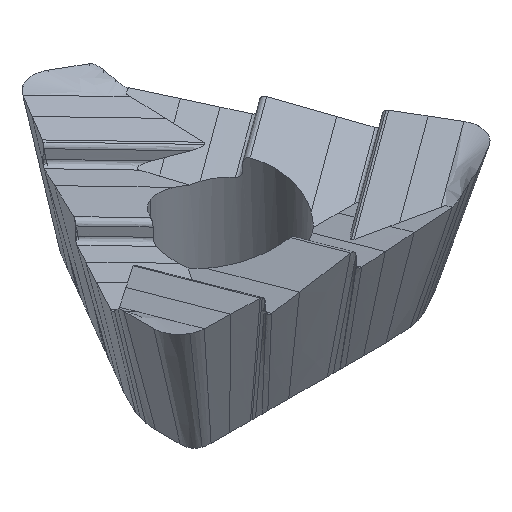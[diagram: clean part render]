
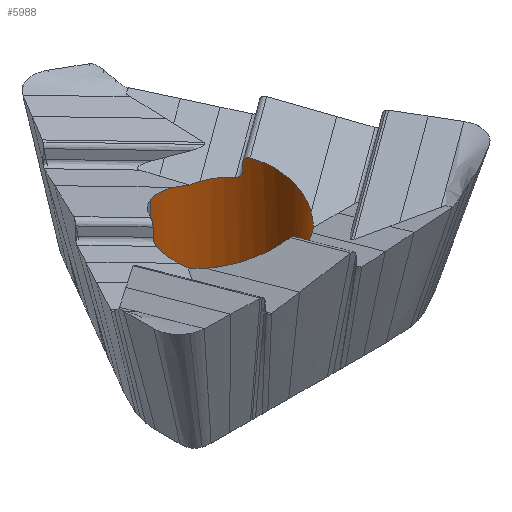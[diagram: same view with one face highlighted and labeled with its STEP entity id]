
A CAD part, isometric view. The second image highlights one B-rep face of the part: STEP entity #5988.
In plain terms, the highlighted cylindrical face has radius 1.9 mm (diameter 3.8 mm), a partial arc.
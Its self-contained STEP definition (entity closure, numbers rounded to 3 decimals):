
#1391=AXIS2_PLACEMENT_3D('Circle Axis2P3D',#1389,#1390,$) ;
#5881=AXIS2_PLACEMENT_3D('Cylinder Axis2P3D',#5878,#5879,#5880) ;
#1384=CARTESIAN_POINT('Vertex',(-0.911,1.667,0.)) ;
#1386=CARTESIAN_POINT('Vertex',(0.911,-1.667,0.)) ;
#1389=CARTESIAN_POINT('Axis2P3D Location',(0.,0.,0.)) ;
#5753=CARTESIAN_POINT('Vertex',(-0.911,1.667,3.129)) ;
#5846=CARTESIAN_POINT('Vertex',(0.911,-1.667,2.772)) ;
#5849=CARTESIAN_POINT('Line Origine',(0.911,-1.667,2.)) ;
#5854=CARTESIAN_POINT('Line Origine',(-0.911,1.667,2.)) ;
#5878=CARTESIAN_POINT('Axis2P3D Location',(0.,0.,2.)) ;
#5884=CARTESIAN_POINT('Control Point',(0.911,-1.667,2.772)) ;
#5885=CARTESIAN_POINT('Control Point',(0.986,-1.626,2.768)) ;
#5886=CARTESIAN_POINT('Control Point',(1.059,-1.58,2.762)) ;
#5887=CARTESIAN_POINT('Control Point',(1.129,-1.528,2.755)) ;
#5888=CARTESIAN_POINT('Vertex',(1.129,-1.528,2.755)) ;
#5892=CARTESIAN_POINT('Control Point',(1.129,-1.528,2.755)) ;
#5893=CARTESIAN_POINT('Control Point',(1.199,-1.476,2.748)) ;
#5894=CARTESIAN_POINT('Control Point',(1.265,-1.42,2.739)) ;
#5895=CARTESIAN_POINT('Control Point',(1.327,-1.36,2.729)) ;
#5896=CARTESIAN_POINT('Vertex',(1.327,-1.36,2.729)) ;
#5900=CARTESIAN_POINT('Control Point',(1.327,-1.36,2.729)) ;
#5901=CARTESIAN_POINT('Control Point',(1.433,-1.256,2.768)) ;
#5902=CARTESIAN_POINT('Control Point',(1.527,-1.14,2.809)) ;
#5903=CARTESIAN_POINT('Control Point',(1.606,-1.015,2.85)) ;
#5904=CARTESIAN_POINT('Vertex',(1.606,-1.015,2.85)) ;
#5908=CARTESIAN_POINT('Control Point',(1.627,0.982,3.356)) ;
#5909=CARTESIAN_POINT('Control Point',(1.899,0.531,3.275)) ;
#5910=CARTESIAN_POINT('Control Point',(2.005,-0.025,3.147)) ;
#5911=CARTESIAN_POINT('Control Point',(1.885,-0.574,2.994)) ;
#5912=CARTESIAN_POINT('Control Point',(1.606,-1.015,2.85)) ;
#5913=CARTESIAN_POINT('Vertex',(1.627,0.982,3.356)) ;
#5917=CARTESIAN_POINT('Control Point',(1.627,0.982,3.356)) ;
#5918=CARTESIAN_POINT('Control Point',(1.595,1.035,3.365)) ;
#5919=CARTESIAN_POINT('Control Point',(1.556,1.093,3.339)) ;
#5920=CARTESIAN_POINT('Control Point',(1.533,1.123,3.273)) ;
#5921=CARTESIAN_POINT('Control Point',(1.531,1.125,3.21)) ;
#5922=CARTESIAN_POINT('Vertex',(1.531,1.125,3.21)) ;
#5926=CARTESIAN_POINT('Control Point',(1.524,1.134,2.93)) ;
#5927=CARTESIAN_POINT('Control Point',(1.527,1.131,3.024)) ;
#5928=CARTESIAN_POINT('Control Point',(1.529,1.128,3.117)) ;
#5929=CARTESIAN_POINT('Control Point',(1.531,1.125,3.21)) ;
#5930=CARTESIAN_POINT('Vertex',(1.524,1.134,2.93)) ;
#5934=CARTESIAN_POINT('Control Point',(1.423,1.259,2.78)) ;
#5935=CARTESIAN_POINT('Control Point',(1.463,1.214,2.779)) ;
#5936=CARTESIAN_POINT('Control Point',(1.502,1.165,2.808)) ;
#5937=CARTESIAN_POINT('Control Point',(1.522,1.137,2.871)) ;
#5938=CARTESIAN_POINT('Control Point',(1.524,1.134,2.93)) ;
#5939=CARTESIAN_POINT('Vertex',(1.423,1.259,2.78)) ;
#5943=CARTESIAN_POINT('Control Point',(1.423,1.259,2.78)) ;
#5944=CARTESIAN_POINT('Control Point',(1.243,1.462,2.786)) ;
#5945=CARTESIAN_POINT('Control Point',(1.018,1.629,2.778)) ;
#5946=CARTESIAN_POINT('Control Point',(0.759,1.742,2.755)) ;
#5947=CARTESIAN_POINT('Vertex',(0.759,1.742,2.755)) ;
#5951=CARTESIAN_POINT('Control Point',(0.759,1.742,2.755)) ;
#5952=CARTESIAN_POINT('Control Point',(0.679,1.777,2.748)) ;
#5953=CARTESIAN_POINT('Control Point',(0.597,1.806,2.739)) ;
#5954=CARTESIAN_POINT('Control Point',(0.514,1.829,2.729)) ;
#5955=CARTESIAN_POINT('Vertex',(0.514,1.829,2.729)) ;
#5959=CARTESIAN_POINT('Control Point',(0.514,1.829,2.729)) ;
#5960=CARTESIAN_POINT('Control Point',(0.371,1.869,2.768)) ;
#5961=CARTESIAN_POINT('Control Point',(0.224,1.893,2.809)) ;
#5962=CARTESIAN_POINT('Control Point',(0.076,1.898,2.85)) ;
#5963=CARTESIAN_POINT('Vertex',(0.076,1.898,2.85)) ;
#5967=CARTESIAN_POINT('Control Point',(-0.911,1.667,3.129)) ;
#5968=CARTESIAN_POINT('Control Point',(-0.61,1.832,3.042)) ;
#5969=CARTESIAN_POINT('Control Point',(-0.264,1.912,2.944)) ;
#5970=CARTESIAN_POINT('Control Point',(0.076,1.898,2.85)) ;
#1390=DIRECTION('Axis2P3D Direction',(-0.,0.,1.)) ;
#5850=DIRECTION('Vector Direction',(0.,0.,1.)) ;
#5855=DIRECTION('Vector Direction',(0.,0.,1.)) ;
#5879=DIRECTION('Axis2P3D Direction',(0.,0.,1.)) ;
#5880=DIRECTION('Axis2P3D XDirection',(0.479,-0.878,0.)) ;
#5851=VECTOR('Line Direction',#5850,1.) ;
#5856=VECTOR('Line Direction',#5855,1.) ;
#5973=ORIENTED_EDGE('',*,*,#5890,.T.) ;
#5974=ORIENTED_EDGE('',*,*,#5898,.T.) ;
#5975=ORIENTED_EDGE('',*,*,#5906,.T.) ;
#5976=ORIENTED_EDGE('',*,*,#5915,.F.) ;
#5977=ORIENTED_EDGE('',*,*,#5924,.T.) ;
#5978=ORIENTED_EDGE('',*,*,#5932,.F.) ;
#5979=ORIENTED_EDGE('',*,*,#5941,.F.) ;
#5980=ORIENTED_EDGE('',*,*,#5949,.T.) ;
#5981=ORIENTED_EDGE('',*,*,#5957,.T.) ;
#5982=ORIENTED_EDGE('',*,*,#5965,.T.) ;
#5983=ORIENTED_EDGE('',*,*,#5971,.F.) ;
#5984=ORIENTED_EDGE('',*,*,#5858,.F.) ;
#5985=ORIENTED_EDGE('',*,*,#1393,.F.) ;
#5986=ORIENTED_EDGE('',*,*,#5853,.T.) ;
#5988=ADVANCED_FACE('CUT',(#5987),#5882,.F.) ;
#5883=B_SPLINE_CURVE_WITH_KNOTS('',3,(#5884,#5885,#5886,#5887),.UNSPECIFIED.,.F.,.U.,(4,4),(0.,0.437),.UNSPECIFIED.) ;
#5891=B_SPLINE_CURVE_WITH_KNOTS('',3,(#5892,#5893,#5894,#5895),.UNSPECIFIED.,.F.,.U.,(4,4),(0.,0.376),.UNSPECIFIED.) ;
#5899=B_SPLINE_CURVE_WITH_KNOTS('',3,(#5900,#5901,#5902,#5903),.UNSPECIFIED.,.F.,.U.,(4,4),(0.257,0.909),.UNSPECIFIED.) ;
#5907=B_SPLINE_CURVE_WITH_KNOTS('',4,(#5908,#5909,#5910,#5911,#5912),.UNSPECIFIED.,.F.,.U.,(5,5),(0.,3.016),.UNSPECIFIED.) ;
#5916=B_SPLINE_CURVE_WITH_KNOTS('',4,(#5917,#5918,#5919,#5920,#5921),.UNSPECIFIED.,.F.,.U.,(5,5),(0.,0.443),.UNSPECIFIED.) ;
#5925=B_SPLINE_CURVE_WITH_KNOTS('',3,(#5926,#5927,#5928,#5929),.UNSPECIFIED.,.F.,.U.,(4,4),(0.,0.557),.UNSPECIFIED.) ;
#5933=B_SPLINE_CURVE_WITH_KNOTS('',4,(#5934,#5935,#5936,#5937,#5938),.UNSPECIFIED.,.F.,.U.,(5,5),(0.,0.42),.UNSPECIFIED.) ;
#5942=B_SPLINE_CURVE_WITH_KNOTS('',3,(#5943,#5944,#5945,#5946),.UNSPECIFIED.,.F.,.U.,(4,4),(0.,1.416),.UNSPECIFIED.) ;
#5950=B_SPLINE_CURVE_WITH_KNOTS('',3,(#5951,#5952,#5953,#5954),.UNSPECIFIED.,.F.,.U.,(4,4),(0.,0.376),.UNSPECIFIED.) ;
#5958=B_SPLINE_CURVE_WITH_KNOTS('',3,(#5959,#5960,#5961,#5962),.UNSPECIFIED.,.F.,.U.,(4,4),(0.257,0.909),.UNSPECIFIED.) ;
#5966=B_SPLINE_CURVE_WITH_KNOTS('',3,(#5967,#5968,#5969,#5970),.UNSPECIFIED.,.F.,.U.,(4,4),(0.,1.475),.UNSPECIFIED.) ;
#1392=CIRCLE('generated circle',#1391,1.9) ;
#5882=CYLINDRICAL_SURFACE('generated cylinder',#5881,1.9) ;
#1393=EDGE_CURVE('',#1387,#1385,#1392,.T.) ;
#5853=EDGE_CURVE('',#1387,#5847,#5852,.T.) ;
#5858=EDGE_CURVE('',#1385,#5754,#5857,.T.) ;
#5890=EDGE_CURVE('',#5847,#5889,#5883,.T.) ;
#5898=EDGE_CURVE('',#5889,#5897,#5891,.T.) ;
#5906=EDGE_CURVE('',#5897,#5905,#5899,.T.) ;
#5915=EDGE_CURVE('',#5914,#5905,#5907,.T.) ;
#5924=EDGE_CURVE('',#5914,#5923,#5916,.T.) ;
#5932=EDGE_CURVE('',#5931,#5923,#5925,.T.) ;
#5941=EDGE_CURVE('',#5940,#5931,#5933,.T.) ;
#5949=EDGE_CURVE('',#5940,#5948,#5942,.T.) ;
#5957=EDGE_CURVE('',#5948,#5956,#5950,.T.) ;
#5965=EDGE_CURVE('',#5956,#5964,#5958,.T.) ;
#5971=EDGE_CURVE('',#5754,#5964,#5966,.T.) ;
#5972=EDGE_LOOP('',(#5973,#5974,#5975,#5976,#5977,#5978,#5979,#5980,#5981,#5982,#5983,#5984,#5985,#5986)) ;
#5987=FACE_OUTER_BOUND('',#5972,.T.) ;
#5852=LINE('Line',#5849,#5851) ;
#5857=LINE('Line',#5854,#5856) ;
#1385=VERTEX_POINT('',#1384) ;
#1387=VERTEX_POINT('',#1386) ;
#5754=VERTEX_POINT('',#5753) ;
#5847=VERTEX_POINT('',#5846) ;
#5889=VERTEX_POINT('',#5888) ;
#5897=VERTEX_POINT('',#5896) ;
#5905=VERTEX_POINT('',#5904) ;
#5914=VERTEX_POINT('',#5913) ;
#5923=VERTEX_POINT('',#5922) ;
#5931=VERTEX_POINT('',#5930) ;
#5940=VERTEX_POINT('',#5939) ;
#5948=VERTEX_POINT('',#5947) ;
#5956=VERTEX_POINT('',#5955) ;
#5964=VERTEX_POINT('',#5963) ;
